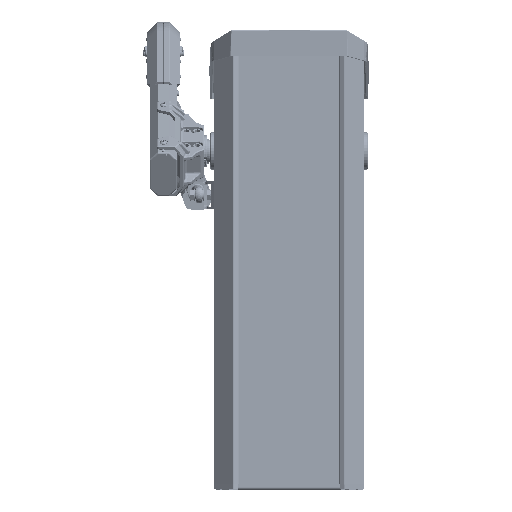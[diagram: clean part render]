
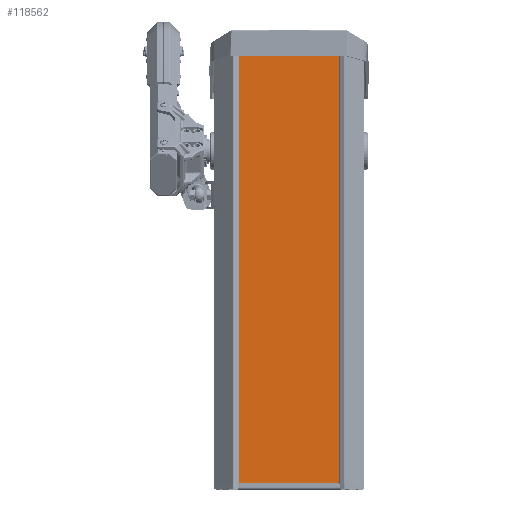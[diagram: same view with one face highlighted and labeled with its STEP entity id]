
A CAD part, front view. The second image highlights one B-rep face of the part: STEP entity #118562.
In plain terms, the highlighted planar face has unit normal (0, -1, 0) as drawn and (0, 1, 0) by its records, which use the part's own axes.
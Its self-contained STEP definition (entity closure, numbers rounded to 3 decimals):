
#10455=CIRCLE('',#137188,5.25);
#10456=CIRCLE('',#137189,5.25);
#20856=ORIENTED_EDGE('',*,*,#53700,.T.);
#20857=ORIENTED_EDGE('',*,*,#53701,.T.);
#20858=ORIENTED_EDGE('',*,*,#53688,.F.);
#20859=ORIENTED_EDGE('',*,*,#53702,.T.);
#20860=ORIENTED_EDGE('',*,*,#53682,.F.);
#20861=ORIENTED_EDGE('',*,*,#53703,.T.);
#20862=ORIENTED_EDGE('',*,*,#53678,.F.);
#20863=ORIENTED_EDGE('',*,*,#53704,.T.);
#20864=ORIENTED_EDGE('',*,*,#53692,.F.);
#20865=ORIENTED_EDGE('',*,*,#53705,.T.);
#53678=EDGE_CURVE('',#70551,#70552,#81398,.T.);
#53682=EDGE_CURVE('',#70555,#70556,#81402,.T.);
#53688=EDGE_CURVE('',#70561,#70562,#81408,.T.);
#53692=EDGE_CURVE('',#70565,#70566,#81412,.T.);
#53700=EDGE_CURVE('',#70569,#70569,#10455,.T.);
#53701=EDGE_CURVE('',#70570,#70570,#10456,.T.);
#53702=EDGE_CURVE('',#70561,#70556,#81418,.F.);
#53703=EDGE_CURVE('',#70555,#70552,#81419,.F.);
#53704=EDGE_CURVE('',#70551,#70566,#81420,.F.);
#53705=EDGE_CURVE('',#70565,#70562,#81421,.F.);
#70551=VERTEX_POINT('',#190770);
#70552=VERTEX_POINT('',#190771);
#70555=VERTEX_POINT('',#190779);
#70556=VERTEX_POINT('',#190780);
#70561=VERTEX_POINT('',#190791);
#70562=VERTEX_POINT('',#190793);
#70565=VERTEX_POINT('',#190800);
#70566=VERTEX_POINT('',#190802);
#70569=VERTEX_POINT('',#190815);
#70570=VERTEX_POINT('',#190817);
#81398=LINE('',#190769,#90370);
#81402=LINE('',#190778,#90374);
#81408=LINE('',#190792,#90380);
#81412=LINE('',#190801,#90384);
#81418=LINE('',#190818,#90390);
#81419=LINE('',#190819,#90391);
#81420=LINE('',#190820,#90392);
#81421=LINE('',#190821,#90393);
#90370=VECTOR('',#153800,1000.);
#90374=VECTOR('',#153806,1000.);
#90380=VECTOR('',#153814,1000.);
#90384=VECTOR('',#153820,1000.);
#90390=VECTOR('',#153838,1000.);
#90391=VECTOR('',#153839,1000.);
#90392=VECTOR('',#153840,1000.);
#90393=VECTOR('',#153841,1000.);
#99460=EDGE_LOOP('',(#20856));
#99461=EDGE_LOOP('',(#20857));
#99462=EDGE_LOOP('',(#20858,#20859,#20860,#20861,#20862,#20863,#20864,#20865));
#107750=FACE_BOUND('',#99460,.T.);
#107751=FACE_BOUND('',#99461,.T.);
#107752=FACE_BOUND('',#99462,.T.);
#114930=PLANE('',#137187);
#118562=ADVANCED_FACE('',(#107750,#107751,#107752),#114930,.F.);
#137187=AXIS2_PLACEMENT_3D('',#190813,#153832,#153833);
#137188=AXIS2_PLACEMENT_3D('',#190814,#153834,#153835);
#137189=AXIS2_PLACEMENT_3D('',#190816,#153836,#153837);
#153800=DIRECTION('',(0.,0.,-1.));
#153806=DIRECTION('',(1.,0.,0.));
#153814=DIRECTION('',(0.,0.,1.));
#153820=DIRECTION('',(-1.,0.,0.));
#153832=DIRECTION('',(0.,-1.,0.));
#153833=DIRECTION('',(0.,0.,-1.));
#153834=DIRECTION('',(0.,-1.,0.));
#153835=DIRECTION('',(0.,0.,-1.));
#153836=DIRECTION('',(0.,-1.,0.));
#153837=DIRECTION('',(0.,0.,-1.));
#153838=DIRECTION('',(0.707,0.,0.707));
#153839=DIRECTION('',(0.707,0.,-0.707));
#153840=DIRECTION('',(-0.707,0.,-0.707));
#153841=DIRECTION('',(-0.707,0.,0.707));
#190769=CARTESIAN_POINT('',(-108.3,0.,862.));
#190770=CARTESIAN_POINT('',(-108.3,0.,860.));
#190771=CARTESIAN_POINT('',(-108.3,0.,2.));
#190778=CARTESIAN_POINT('',(-108.3,0.,0.));
#190779=CARTESIAN_POINT('',(-106.3,0.,0.));
#190780=CARTESIAN_POINT('',(106.3,0.,0.));
#190791=CARTESIAN_POINT('',(108.3,0.,2.));
#190792=CARTESIAN_POINT('',(108.3,0.,0.));
#190793=CARTESIAN_POINT('',(108.3,0.,860.));
#190800=CARTESIAN_POINT('',(106.3,0.,862.));
#190801=CARTESIAN_POINT('',(108.3,0.,862.));
#190802=CARTESIAN_POINT('',(-106.3,0.,862.));
#190813=CARTESIAN_POINT('',(-108.3,0.,0.));
#190814=CARTESIAN_POINT('',(-85.,0.,7.));
#190815=CARTESIAN_POINT('',(-85.,0.,1.75));
#190816=CARTESIAN_POINT('',(85.,0.,7.));
#190817=CARTESIAN_POINT('',(85.,0.,1.75));
#190818=CARTESIAN_POINT('',(108.3,0.,2.));
#190819=CARTESIAN_POINT('',(-106.3,0.,0.));
#190820=CARTESIAN_POINT('',(-108.3,0.,860.));
#190821=CARTESIAN_POINT('',(106.3,0.,862.));
